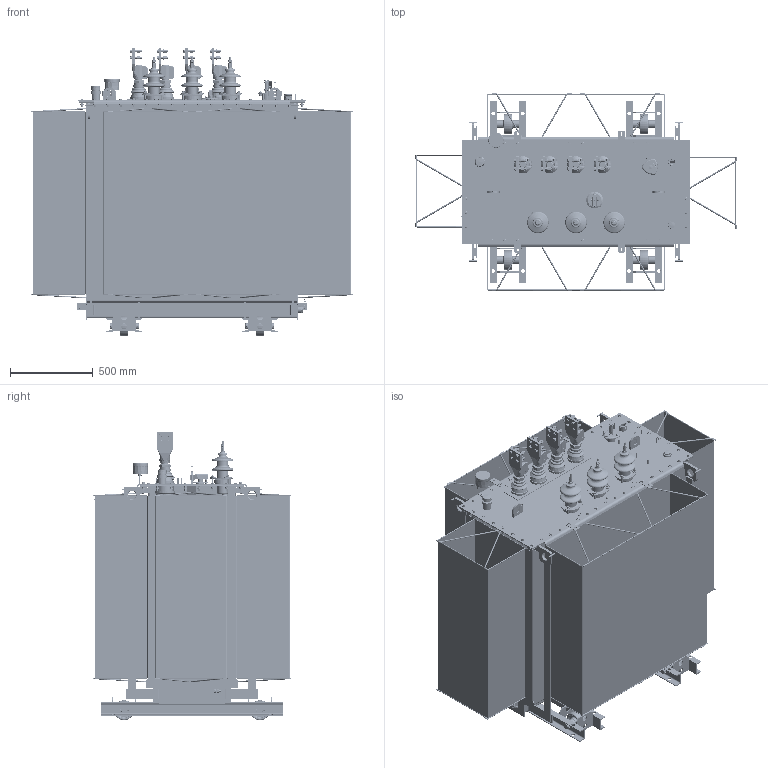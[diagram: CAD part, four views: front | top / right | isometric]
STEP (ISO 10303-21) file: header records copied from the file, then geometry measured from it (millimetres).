
FILE_DESCRIPTION(/* description */ (''),/* implementation_level */ '2;1');
FILE_NAME(/* name */ 'D:\SEARCHWORK\Готовые\Готовые ТМГ\ТМГ33\ТМГ33-1250-10-УХЛ1-Х3К2\ТМГ33-1250-10-УХЛ1-Х3К2(общий вид).stp',/* time_stamp */ '2024-01-31T11:03:51+03:00',/* author */ ('55505'),/* organization */ (''),/* preprocessor_version */ 'ST-DEVELOPER v18.1',/* originating_system */ 'Autodesk Inventor 2021',/* authorisation */ '');
FILE_SCHEMA (('AUTOMOTIVE_DESIGN { 1 0 10303 214 3 1 1 }'));
Products named in the file (1): ВИЕЛ.672333.032
Bounding box: 1936.79 x 1193.77 x 1738.9 mm (x, y, z)
Volume: 44152175.5 mm3; surface area: 25104064.7 mm2
Topology: 62 solids, 95 shells, 11679 faces, 29039 edges, 18453 vertices
Faces by surface type: plane 5989, cylinder 3164, bspline 1279, cone 677, torus 487, sphere 83
Full cylindrical faces by diameter (mm): 0.71 x2, 1.5 x4, 1.6 x5, 2 x4, 3.1 x4, 3.2 x4, 3.4 x4, 3.8 x4, 3.96 x3, 4 x6, 4.3 x2, 4.917 x2, 5 x15, 5.3 x5, 5.5 x13, 5.94 x5, 6 x44, 6.2 x5, 6.4 x6, 6.5 x1, 7 x9, 7.1 x2, 7.92 x3, 8 x42, 8.5 x3, 9 x10, 9.9 x48, 10 x179, 10.7 x3, 11 x5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
Entity records: 401032 total; most frequent: CARTESIAN_POINT 118974, ORIENTED_EDGE 57592, DIRECTION 53844, EDGE_CURVE 28820, AXIS2_PLACEMENT_3D 19709, VERTEX_POINT 18498, LINE 14426, VECTOR 14426
